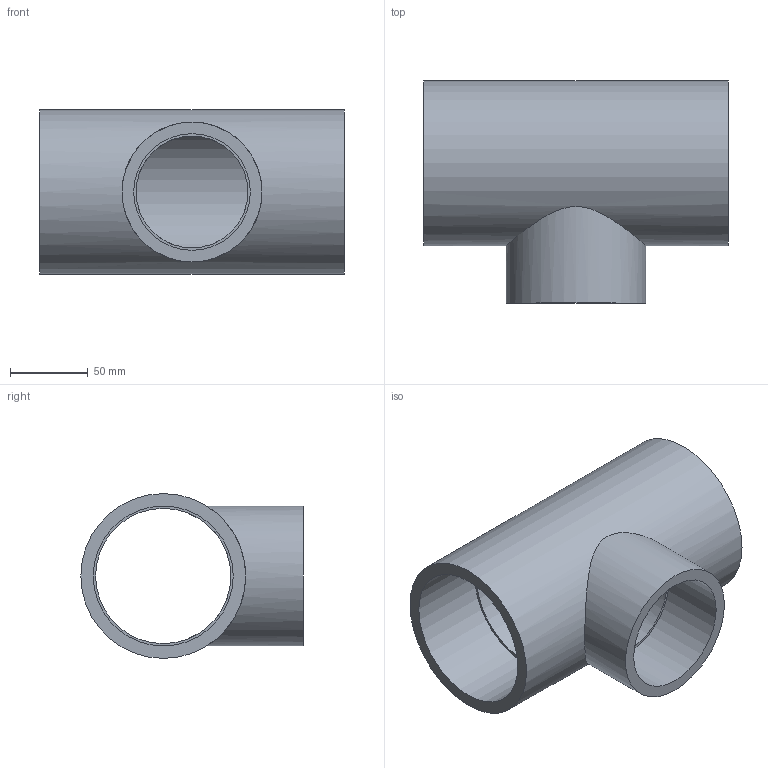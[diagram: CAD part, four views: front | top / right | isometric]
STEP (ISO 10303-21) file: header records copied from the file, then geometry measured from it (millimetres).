
FILE_DESCRIPTION(/* description */ ('PVC ti a 90° ridotto incollaggio metrico'),/* implementation_level */ '2;1');
FILE_NAME(/* name */ 'C:\Users\POLYPIPE\Desktop\DATASET INVENTOR\LIBRERIA EFFAST\RACCORDI 3DxWEB\RDR\3D_RDRTRD\3D_RDRTRD090H.stp',/* time_stamp */ '2018-01-19T15:49:09+01:00',/* author */ ('POLYPIPE'),/* organization */ ('Polypipe Italia s.r.l.'),/* preprocessor_version */ 'ST-DEVELOPER v16.1',/* originating_system */ 'Autodesk Inventor 2016',/* authorisation */ '');
FILE_SCHEMA (('CONFIG_CONTROL_DESIGN'));
Length unit declared in the file: millimetre
Products named in the file (1): 3D_RDRTRD
Bounding box: 196 x 143 x 106 mm (x, y, z)
Volume: 570305.1 mm3; surface area: 142740.8 mm2
Topology: 1 solids, 1 shells, 13 faces, 23 edges, 16 vertices
Faces by surface type: cylinder 7, plane 6
Full cylindrical faces by diameter (mm): 72 x1, 75 x1, 87 x1, 90 x3, 106 x1
Entity records: 430 total; most frequent: CARTESIAN_POINT 172, DIRECTION 52, EDGE_LOOP 28, ORIENTED_EDGE 28, AXIS2_PLACEMENT_3D 26, FACE_BOUND 15, VERTEX_POINT 14, EDGE_CURVE 14
